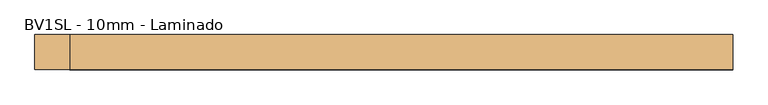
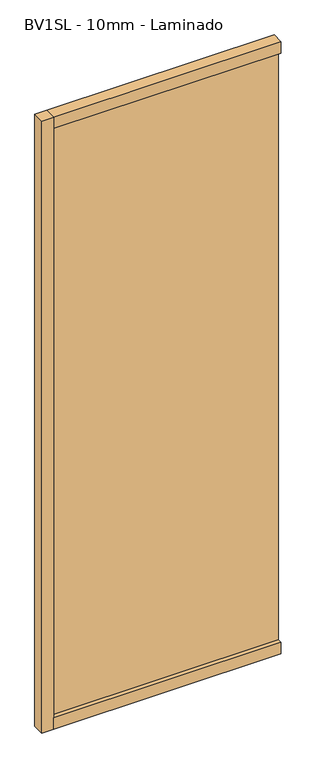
"""IFC4 building model written with IfcOpenShell, lengths in millimetres: door geometry, Mobiliário_Mobiliário de Escritório_Painel Vidro Simples - BVST e BVSL (Inicial ou Final)_Marelli : BV1SL - 10mm - Laminado."""

from ifc_helpers import new_model, si_unit, frame, origin, origin_with_axes, place, context, project, spatial, polyline, outline, extrude, source, transform, mapped, element, save


def bv1sl_10mm_laminado_0e138f9b(model_context):
    return source(origin(), model_context, "Body", "SweptSolid", [
        extrude(outline(polyline([(25.0, 0.0), (-25.0, 0.0), (-25.0, 50.0), (-5.0, 50.0), (-5.0, 30.0), (5.0, 30.0), (5.0, 50.0), (25.0, 50.0), (25.0, 0.0)])), frame((-450.0, 0.0, 0.0), z_axis=(1.0, 0.0, 0.0), x_axis=(0.0, 1.0, 0.0)), (0.0, 0.0, 1.0), 950.0),
        extrude(outline(polyline([(-500.0, -25.0), (-500.0, 25.0), (-450.0, 25.0), (-450.0, -25.0), (-500.0, -25.0)])), origin_with_axes(), (0.0, 0.0, 1.0), 2700.0),
        extrude(outline(polyline([(500.0, 5.0), (500.0, -5.0), (-450.0, -5.0), (-450.0, 5.0), (500.0, 5.0)])), frame((0.0, 0.0, 30.0), z_axis=(0.0, 0.0, 1.0), x_axis=(1.0, 0.0, 0.0)), (0.0, 0.0, 1.0), 2640.0),
        extrude(outline(polyline([(25.0, 2700.0), (25.0, 2650.0), (5.0, 2650.0), (5.0, 2670.0), (-5.0, 2670.0), (-5.0, 2650.0), (-25.0, 2650.0), (-25.0, 2700.0), (25.0, 2700.0)])), frame((-450.0, 0.0, 0.0), z_axis=(1.0, 0.0, 0.0), x_axis=(0.0, 1.0, 0.0)), (0.0, 0.0, 1.0), 950.0),
    ])


if __name__ == "__main__":
    model = new_model("IFC4")
    model_context = context("Model", 3, world=origin())
    ifc_project = project(units=[si_unit("LENGTHUNIT", "METRE", prefix="MILLI")], contexts=[model_context])
    site = spatial("IfcSite", under=ifc_project)
    building = spatial("IfcBuilding", under=site)
    placement = place(None, origin())
    bv1sl_10mm_laminado_shape = bv1sl_10mm_laminado_0e138f9b(model_context)
    element("IfcDoor", 1, ObjectType="Mobiliário_Mobiliário de Escritório_Painel Vidro Simples - BVST e BVSL (Inicial ou Final)_Marelli : BV1SL - 10mm - Laminado", at=placement, inside=building, context=model_context, shape_type="MappedRepresentation", body=[
        mapped(bv1sl_10mm_laminado_shape, transform((0.0, 0.0, 0.0), x_axis=(1.0, 0.0, 0.0), y_axis=(0.0, 1.0, 0.0), z_axis=(0.0, 0.0, 1.0))),
    ])
    save(model, "model.ifc")
